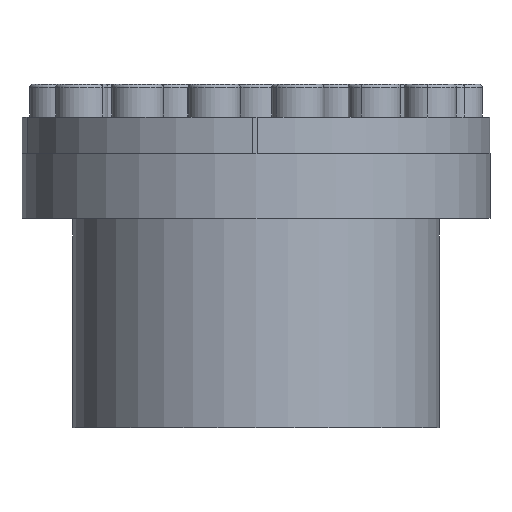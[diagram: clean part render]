
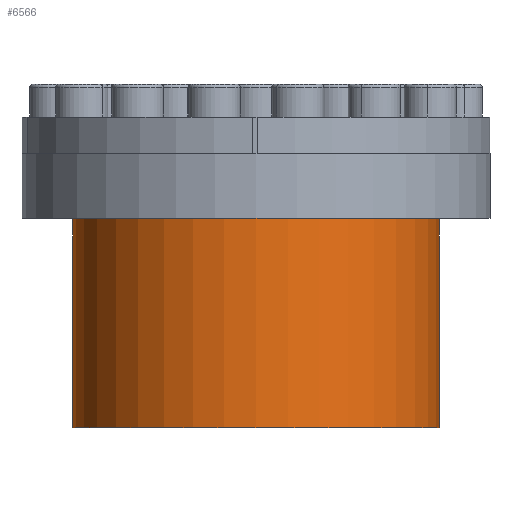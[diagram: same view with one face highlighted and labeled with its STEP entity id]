
A CAD part, front view. The second image highlights one B-rep face of the part: STEP entity #6566.
In plain terms, the highlighted cylindrical face has radius 56 mm (diameter 112 mm), a partial arc.
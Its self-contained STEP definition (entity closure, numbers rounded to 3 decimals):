
#141 = EDGE_CURVE ( 'NONE', #14871, #17536, #21391, .T. ) ;
#447 = CARTESIAN_POINT ( 'NONE',  ( -56., 0., -78. ) ) ;
#537 = CARTESIAN_POINT ( 'NONE',  ( 0., 0., -13. ) ) ;
#1197 = VERTEX_POINT ( 'NONE', #447 ) ;
#1729 = EDGE_LOOP ( 'NONE', ( #18776, #16949, #14745, #21026 ) ) ;
#2107 = AXIS2_PLACEMENT_3D ( 'NONE', #4994, #17045, #6711 ) ;
#2261 = DIRECTION ( 'NONE',  ( 0., 0., -1. ) ) ;
#2803 = CARTESIAN_POINT ( 'NONE',  ( 56., 0., -13.6 ) ) ;
#3607 = CARTESIAN_POINT ( 'NONE',  ( -56., 0., -13. ) ) ;
#4286 = DIRECTION ( 'NONE',  ( 0., 0., -1. ) ) ;
#4994 = CARTESIAN_POINT ( 'NONE',  ( 0., 0., -78. ) ) ;
#6566 = ADVANCED_FACE ( 'NONE', ( #18040 ), #20439, .T. ) ;
#6711 = DIRECTION ( 'NONE',  ( -1., 0., 0. ) ) ;
#7878 = EDGE_CURVE ( 'NONE', #21736, #1197, #10996, .T. ) ;
#8006 = EDGE_CURVE ( 'NONE', #17536, #1197, #13438, .T. ) ;
#9916 = CARTESIAN_POINT ( 'NONE',  ( 0., 0., -13.6 ) ) ;
#10486 = VECTOR ( 'NONE', #4286, 1000. ) ;
#10556 = DIRECTION ( 'NONE',  ( 0., 0., -1. ) ) ;
#10996 = CIRCLE ( 'NONE', #2107, 56. ) ;
#11632 = DIRECTION ( 'NONE',  ( -1., 0., 0. ) ) ;
#13225 = CARTESIAN_POINT ( 'NONE',  ( 56., 0., -78. ) ) ;
#13438 = LINE ( 'NONE', #3607, #19873 ) ;
#13443 = CARTESIAN_POINT ( 'NONE',  ( -56., 0., -13.6 ) ) ;
#14624 = CARTESIAN_POINT ( 'NONE',  ( 56., 0., -13. ) ) ;
#14745 = ORIENTED_EDGE ( 'NONE', *, *, #8006, .T. ) ;
#14871 = VERTEX_POINT ( 'NONE', #2803 ) ;
#16374 = EDGE_CURVE ( 'NONE', #14871, #21736, #19633, .T. ) ;
#16949 = ORIENTED_EDGE ( 'NONE', *, *, #141, .T. ) ;
#17045 = DIRECTION ( 'NONE',  ( 0., 0., -1. ) ) ;
#17165 = AXIS2_PLACEMENT_3D ( 'NONE', #9916, #21944, #11632 ) ;
#17536 = VERTEX_POINT ( 'NONE', #13443 ) ;
#18040 = FACE_OUTER_BOUND ( 'NONE', #1729, .T. ) ;
#18776 = ORIENTED_EDGE ( 'NONE', *, *, #16374, .F. ) ;
#19633 = LINE ( 'NONE', #14624, #10486 ) ;
#19873 = VECTOR ( 'NONE', #10556, 1000. ) ;
#20439 = CYLINDRICAL_SURFACE ( 'NONE', #20719, 56. ) ;
#20719 = AXIS2_PLACEMENT_3D ( 'NONE', #537, #2261, #21266 ) ;
#21026 = ORIENTED_EDGE ( 'NONE', *, *, #7878, .F. ) ;
#21266 = DIRECTION ( 'NONE',  ( -1., 0., 0. ) ) ;
#21391 = CIRCLE ( 'NONE', #17165, 56. ) ;
#21736 = VERTEX_POINT ( 'NONE', #13225 ) ;
#21944 = DIRECTION ( 'NONE',  ( 0., 0., -1. ) ) ;
